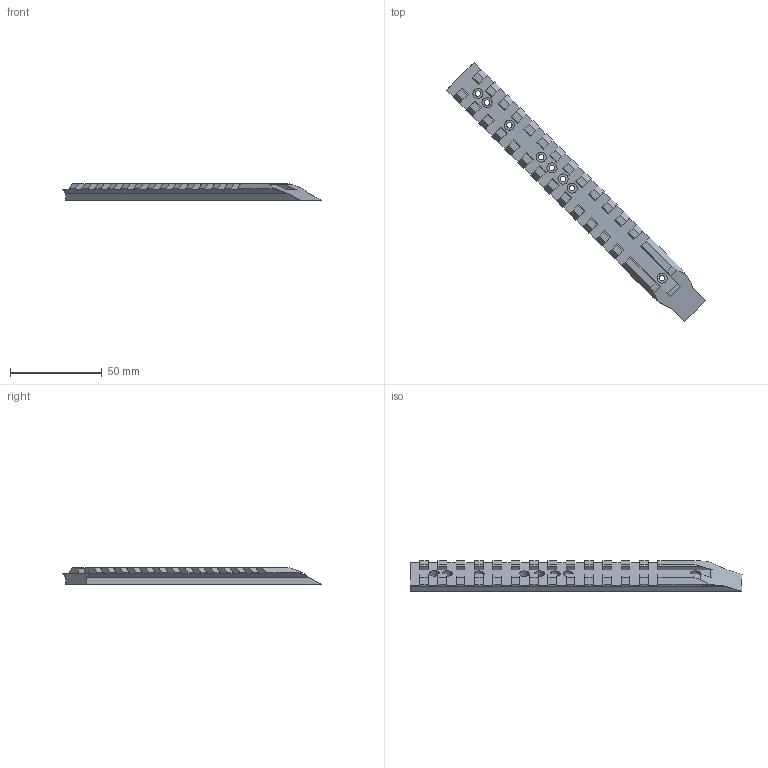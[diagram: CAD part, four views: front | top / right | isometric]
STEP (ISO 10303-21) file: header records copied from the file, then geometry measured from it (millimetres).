
FILE_DESCRIPTION(/* description */ (''),/* implementation_level */ '2;1');
FILE_NAME(/* name */ 'D:/Pew Pews/FGC-9_MkII_Stingray_Edition/Stingray Edition/.step files/1 - Upper/Top Rail Front Half.step',/* time_stamp */ '2022-05-11T21:22:19-06:00',/* author */ (''),/* organization */ (''),/* preprocessor_version */ 'ST-DEVELOPER v18.1',/* originating_system */ 'Autodesk Translation Framework v10.10.0.1391',/* authorisation */ '');
FILE_SCHEMA (('AUTOMOTIVE_DESIGN { 1 0 10303 214 3 1 1 }'));
Length unit declared in the file: millimetre
Products named in the file (1): Top Rail tall front (1)
Bounding box: 141.25 x 141.25 x 9 mm (x, y, z)
Volume: 19925.7 mm3; surface area: 11545.4 mm2
Topology: 1 solids, 1 shells, 209 faces, 589 edges, 392 vertices
Faces by surface type: plane 186, cylinder 23
Full cylindrical faces by diameter (mm): 3 x9, 5 x1, 5.5 x8
Entity records: 6729 total; most frequent: CARTESIAN_POINT 1191, ORIENTED_EDGE 1178, DIRECTION 1059, EDGE_CURVE 589, LINE 539, VECTOR 539, VERTEX_POINT 392, AXIS2_PLACEMENT_3D 260
